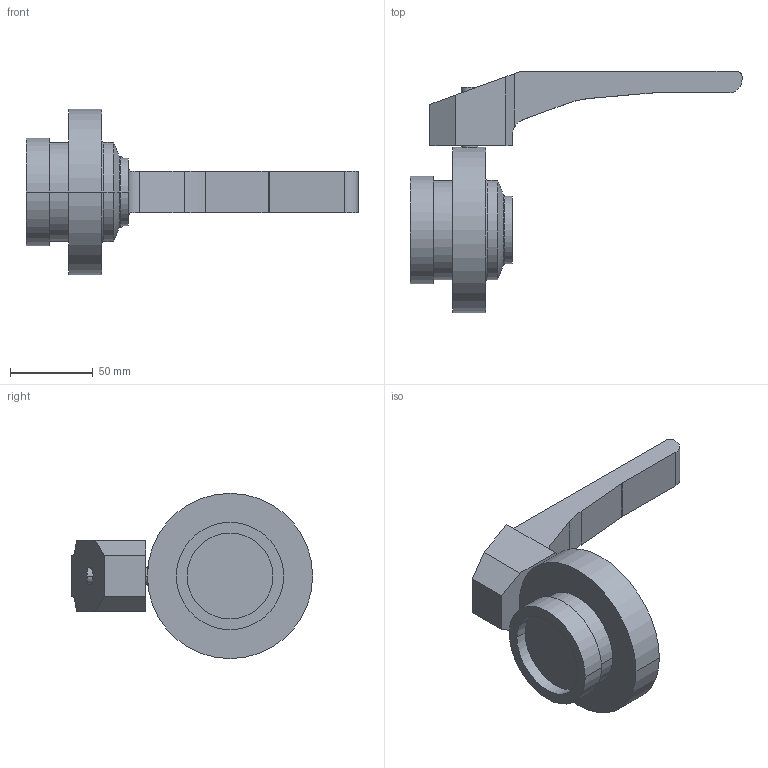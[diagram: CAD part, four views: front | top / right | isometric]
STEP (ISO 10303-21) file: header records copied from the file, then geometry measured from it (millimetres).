
FILE_DESCRIPTION(('Creo Elements/Direct Modeling STEP Export'),'2;1');
FILE_NAME('SV1-40-H-1S-2G.stp','2012-03-08T11:15:35',(''),(''),'Creo Elements/Direct Modeling STEP processor for AP214 (Solid Model)','Creo Elements/Direct Modeling 17.0D 15-Jul-2011 (C) Parametric Technology GmbH','');
FILE_SCHEMA(('AUTOMOTIVE_DESIGN { 1 0 10303 214 1 1 1 1 }'));
Length unit declared in the file: millimetre
Products named in the file (3): SV1-40-H-1S-2G; HANDHEBEL-SV-40-100.PRT; SV1-40-H-1S-2G.stp
Assembly tree (2 placements, depth 2):
  SV1-40-H-1S-2G.stp
    HANDHEBEL-SV-40-100.PRT
    SV1-40-H-1S-2G
Bounding box: 201 x 146 x 100 mm (x, y, z)
Volume: 378564 mm3; surface area: 52904.3 mm2
Topology: 2 solids, 2 shells, 55 faces, 125 edges, 80 vertices
Faces by surface type: plane 26, cylinder 23, torus 4, cone 2
Entity records: 1605 total; most frequent: CARTESIAN_POINT 316, DIRECTION 255, ORIENTED_EDGE 250, EDGE_CURVE 125, AXIS2_PLACEMENT_3D 94, VERTEX_POINT 80, VECTOR 67, LINE 67
